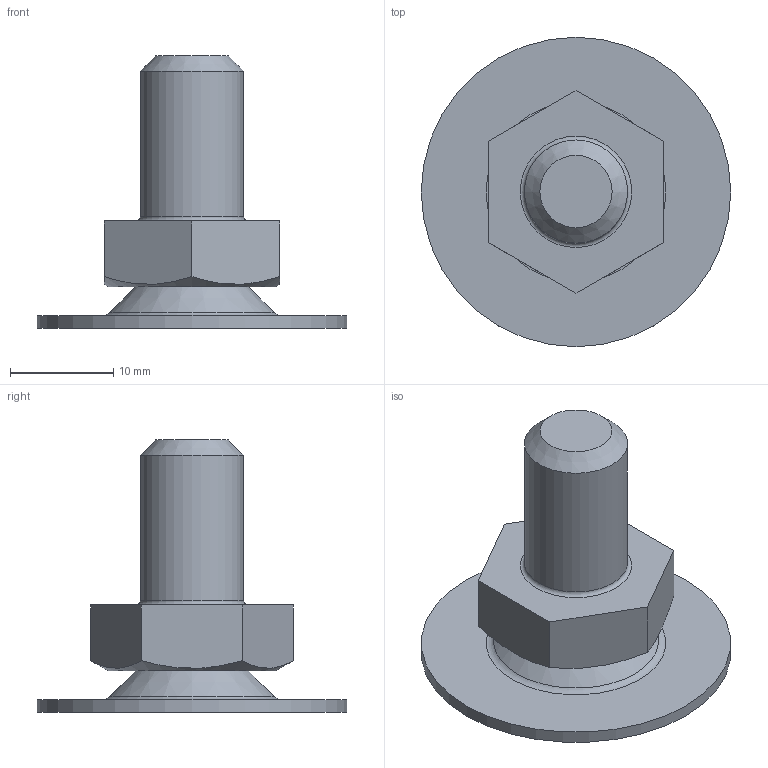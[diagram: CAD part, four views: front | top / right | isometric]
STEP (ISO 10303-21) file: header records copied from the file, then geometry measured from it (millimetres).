
FILE_DESCRIPTION(('STEP AP203'), '1');
FILE_NAME('A00050.1031016', '', ('UNSPECIFIED'), ('UNSPECIFIED'), 'C3D Converter', 'C3D Toolkit', '');
FILE_SCHEMA(('CONFIG_CONTROL_DESIGN'));
Length unit declared in the file: millimetre
Products named in the file (4): A00050.1031016; A00050.1030
Assembly tree (3 placements, depth 2):
  A00050.1031016
    A00050.1030
    (unnamed)
    (unnamed)
Bounding box: 30 x 30 x 26.38 mm (x, y, z)
Volume: 3712.9 mm3; surface area: 3372.8 mm2
Topology: 3 solids, 3 shells, 58 faces, 130 edges, 82 vertices
Faces by surface type: plane 28, torus 8, bspline 8, cone 7, cylinder 6, sphere 1
Full cylindrical faces by diameter (mm): 3.3 x1, 4 x1, 4.5 x1, 8 x1, 10 x1, 30 x1
Entity records: 2171 total; most frequent: CARTESIAN_POINT 784, DIRECTION 242, ORIENTED_EDGE 214, EDGE_CURVE 107, AXIS2_PLACEMENT_3D 95, EDGE_LOOP 86, VERTEX_POINT 81, ADVANCED_FACE 58
